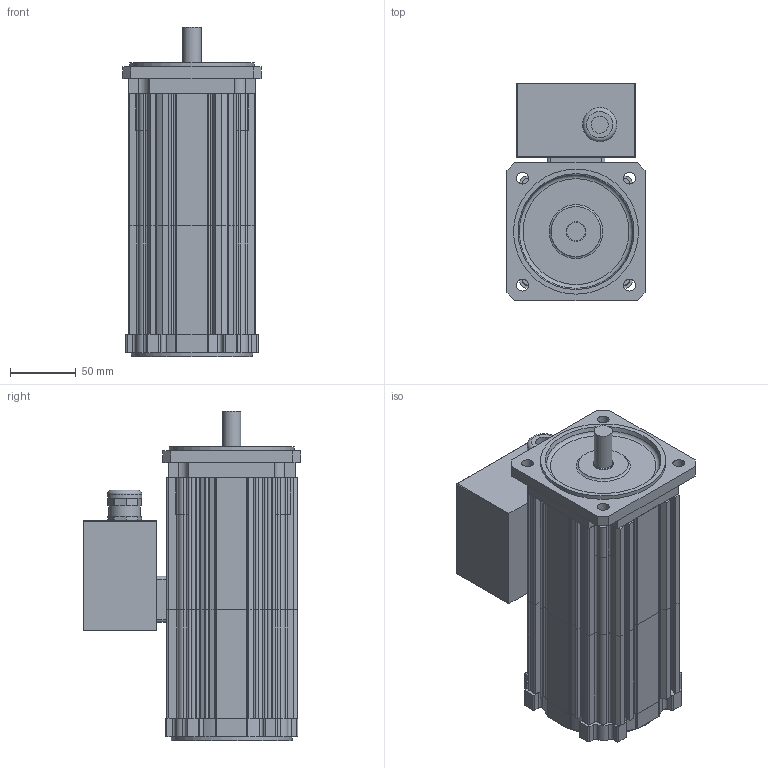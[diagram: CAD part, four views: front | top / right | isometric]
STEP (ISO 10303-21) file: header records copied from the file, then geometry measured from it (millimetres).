
FILE_DESCRIPTION(/* description */ (''),/* implementation_level */ '2;1');
FILE_NAME(/* name */ 'KSA444_MC',/* time_stamp */ '2009-02-26T13:55:30+01:00',/* author */ (''),/* organization */ (''),/* preprocessor_version */ 'ST-DEVELOPER v8',/* originating_system */ 'UNIGRAPHICS SOLUTIONS - UNIGRAPHICS 18.0',/* authorisation */ '');
FILE_SCHEMA (('AUTOMOTIVE_DESIGN { 1 2 10303 214 0 1 1 1 }'));
Length unit declared in the file: millimetre
Products named in the file (6): 0280391350_0; Lagersch4AS_0; Lagersch4BS_0; 089105X_0; Klemmenkasten_0; KSA444_MC_0
Assembly tree (5 placements, depth 3):
  KSA444_MC_0
    089105X_0
    Lagersch4BS_0
    Klemmenkasten_0
      0280391350_0
    Lagersch4AS_0
Bounding box: 105 x 165.35 x 250.5 mm (x, y, z)
Volume: 1330853.6 mm3; surface area: 338431.9 mm2
Topology: 6 solids, 6 shells, 582 faces, 1644 edges, 1085 vertices
Faces by surface type: cylinder 279, plane 269, torus 12, cone 10, bspline 8, sphere 4
Full cylindrical faces by diameter (mm): 9 x4, 13 x1, 14 x1, 15 x1, 18 x1, 20 x1, 24 x1, 26 x1, 89.6 x2, 91 x1, 95 x1
Entity records: 19170 total; most frequent: CARTESIAN_POINT 3612, DIRECTION 3320, ORIENTED_EDGE 3210, EDGE_CURVE 1605, AXIS2_PLACEMENT_3D 1191, VERTEX_POINT 1075, LINE 938, VECTOR 938
